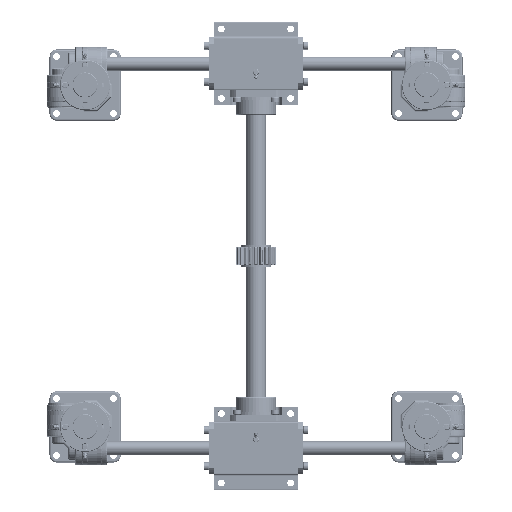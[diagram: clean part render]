
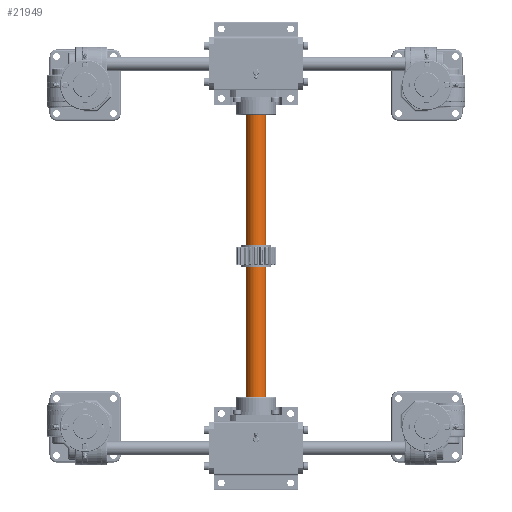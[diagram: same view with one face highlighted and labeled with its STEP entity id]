
A CAD part, top view. The second image highlights one B-rep face of the part: STEP entity #21949.
In plain terms, the highlighted cylindrical face has radius 17.5 mm (diameter 35 mm), a full revolution.
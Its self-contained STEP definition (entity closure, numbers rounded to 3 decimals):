
#21949=ADVANCED_FACE('',(#51233,#51234),#51235,.T.);
#51233=FACE_OUTER_BOUND('',#94742,.T.);
#51234=FACE_OUTER_BOUND('',#94743,.T.);
#51235=CYLINDRICAL_SURFACE('',#94744,17.5);
#94742=EDGE_LOOP('',(#212960));
#94743=EDGE_LOOP('',(#212961));
#94744=AXIS2_PLACEMENT_3D('',#212962,#212963,#212964);
#212960=ORIENTED_EDGE('',*,*,#251245,.T.);
#212961=ORIENTED_EDGE('',*,*,#251246,.T.);
#212962=CARTESIAN_POINT('',(0.0,0.0,496.0));
#212963=DIRECTION('',(0.0,0.0,-1.0));
#212964=DIRECTION('',(-1.0,0.0,0.0));
#251245=EDGE_CURVE('',#314889,#314889,#314890,.T.);
#251246=EDGE_CURVE('',#314891,#314891,#314892,.F.);
#314889=VERTEX_POINT('',#430709);
#314890=CIRCLE('',#430710,17.5);
#314891=VERTEX_POINT('',#430711);
#314892=CIRCLE('',#430712,17.5);
#430709=CARTESIAN_POINT('',(17.5,0.0,1.0));
#430710=AXIS2_PLACEMENT_3D('',#473854,#473855,#473856);
#430711=CARTESIAN_POINT('',(17.5,0.0,495.0));
#430712=AXIS2_PLACEMENT_3D('',#473857,#473858,#473859);
#473854=CARTESIAN_POINT('',(0.0,0.0,1.0));
#473855=DIRECTION('',(0.0,0.0,1.0));
#473856=DIRECTION('',(1.0,0.0,0.0));
#473857=CARTESIAN_POINT('',(0.0,0.0,495.0));
#473858=DIRECTION('',(0.0,0.0,1.0));
#473859=DIRECTION('',(1.0,0.0,0.0));
